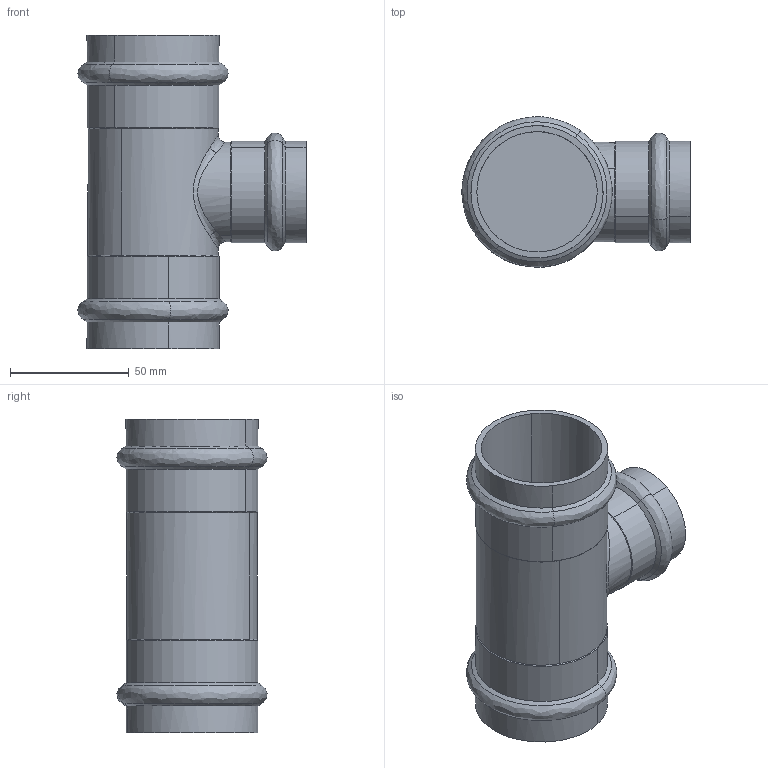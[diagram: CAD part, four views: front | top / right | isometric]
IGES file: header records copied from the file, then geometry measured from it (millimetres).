
Start section: 3D InterOp IGES (Version 25 0 1), Spatial Corp. Copyright (c) 1999-2007.
Global section: file name: pim0004533.igs; native system: Spatial Corp.; preprocessor: 3D InterOp ACIS/IGES; author: Cad-Pim; organization: TransMagic, Inc.; date: 20150430.164840; units: millimetre
Bounding box: 96.16 x 63.32 x 132 mm (x, y, z)
Volume: 193666 mm3; surface area: 51633.4 mm2
Topology: 1 solids, 1 shells, 55 faces, 144 edges, 95 vertices
Faces by surface type: cylinder 20, cone 18, bspline 17
